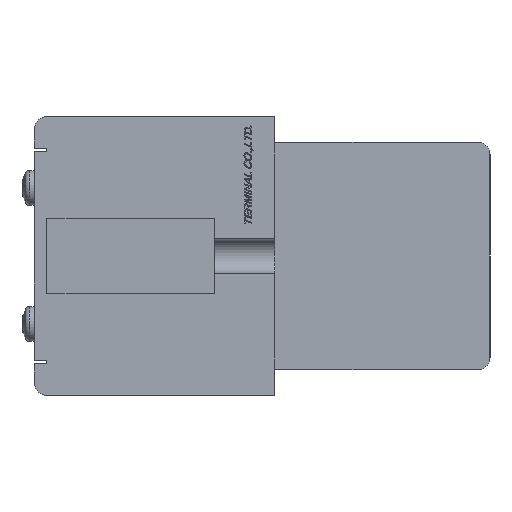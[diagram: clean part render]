
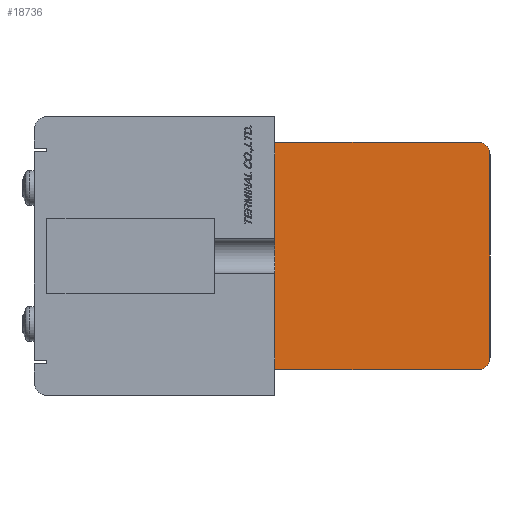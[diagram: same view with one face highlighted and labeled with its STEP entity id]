
A CAD part, left-side view. The second image highlights one B-rep face of the part: STEP entity #18736.
In plain terms, the highlighted planar face has unit normal (-1, 0, 0).
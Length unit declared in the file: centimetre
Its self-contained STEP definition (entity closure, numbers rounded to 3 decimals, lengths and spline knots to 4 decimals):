
#727=CIRCLE('',#31895,0.2);
#728=CIRCLE('',#31898,0.2);
#1854=VERTEX_POINT('',#26972);
#1855=VERTEX_POINT('',#26973);
#1856=VERTEX_POINT('',#26978);
#1857=VERTEX_POINT('',#26982);
#1858=VERTEX_POINT('',#26986);
#1859=VERTEX_POINT('',#26987);
#3883=VECTOR('',#21332,1.);
#3886=VECTOR('',#21340,1.);
#3887=VECTOR('',#21341,1.);
#3888=VECTOR('',#21342,1.);
#5756=LINE('',#26977,#3883);
#5759=LINE('',#26985,#3886);
#5760=LINE('',#26988,#3887);
#5761=LINE('',#26989,#3888);
#7830=EDGE_CURVE('',#1854,#1855,#727,.T.);
#7833=EDGE_CURVE('',#1855,#1856,#5756,.T.);
#7835=EDGE_CURVE('',#1856,#1857,#728,.T.);
#7837=EDGE_CURVE('',#1858,#1859,#5759,.T.);
#7838=EDGE_CURVE('',#1857,#1858,#5760,.T.);
#7839=EDGE_CURVE('',#1859,#1854,#5761,.T.);
#11391=ORIENTED_EDGE('',*,*,#7837,.F.);
#11392=ORIENTED_EDGE('',*,*,#7838,.F.);
#11393=ORIENTED_EDGE('',*,*,#7835,.F.);
#11394=ORIENTED_EDGE('',*,*,#7833,.F.);
#11395=ORIENTED_EDGE('',*,*,#7830,.F.);
#11396=ORIENTED_EDGE('',*,*,#7839,.F.);
#16151=EDGE_LOOP('',(#11391,#11392,#11393,#11394,#11395,#11396));
#17454=FACE_BOUND('',#16151,.T.);
#18736=ADVANCED_FACE('',(#17454),#19753,.F.);
#19753=PLANE('',#31899);
#21327=DIRECTION('',(1.,0.,0.));
#21328=DIRECTION('',(0.,0.,-0.2));
#21332=DIRECTION('',(0.,0.,-1.));
#21336=DIRECTION('',(1.,0.,0.));
#21337=DIRECTION('',(0.,0.,-0.2));
#21339=DIRECTION('',(1.,0.,0.));
#21340=DIRECTION('',(0.,0.,1.));
#21341=DIRECTION('',(0.,1.,0.));
#21342=DIRECTION('',(0.,-1.,0.));
#26971=CARTESIAN_POINT('',(-5.1,-3.2,1.6));
#26972=CARTESIAN_POINT('',(-5.1,-3.2,1.8));
#26973=CARTESIAN_POINT('',(-5.1,-3.4,1.6));
#26977=CARTESIAN_POINT('',(-5.1,-3.4,-1.6));
#26978=CARTESIAN_POINT('',(-5.1,-3.4,-1.6));
#26981=CARTESIAN_POINT('',(-5.1,-3.2,-1.6));
#26982=CARTESIAN_POINT('',(-5.1,-3.2,-1.8));
#26984=CARTESIAN_POINT('',(-5.1,-1.6784,0.));
#26985=CARTESIAN_POINT('',(-5.1,0.,1.8));
#26986=CARTESIAN_POINT('',(-5.1,0.,-1.8));
#26987=CARTESIAN_POINT('',(-5.1,0.,1.8));
#26988=CARTESIAN_POINT('',(-5.1,0.,-1.8));
#26989=CARTESIAN_POINT('',(-5.1,-3.2,1.8));
#31895=AXIS2_PLACEMENT_3D('',#26971,#21327,#21328);
#31898=AXIS2_PLACEMENT_3D('',#26981,#21336,#21337);
#31899=AXIS2_PLACEMENT_3D('',#26984,#21339,$);
